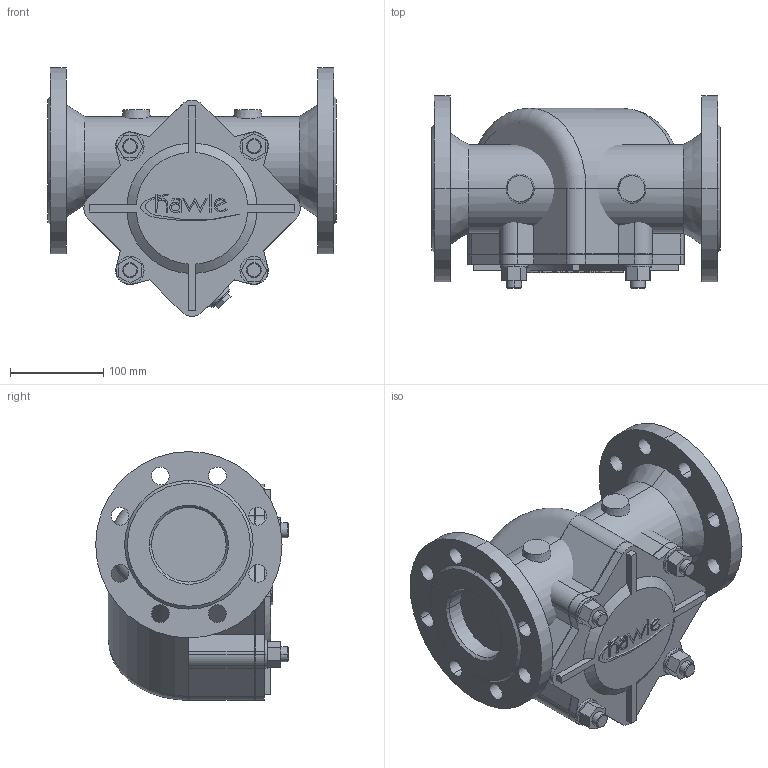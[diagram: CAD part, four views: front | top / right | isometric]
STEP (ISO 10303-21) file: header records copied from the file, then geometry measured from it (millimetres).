
FILE_DESCRIPTION(('STEP AP214'),'1');
FILE_NAME('S:/EK/USER/CAT6/3DHomepage_27-04-2012/neu_22-02-2013/9911/9911_PN16_DN80.STP','2013-02-26T13:22:48',(' '),(' '),'Spatial InterOp 3D',' ',' ');
FILE_SCHEMA(('automotive_design'));
Length unit declared in the file: millimetre
Products named in the file (41): 3D-Objekt
Bounding box: 310 x 206.7 x 267.06 mm (x, y, z)
Volume: 9047976.6 mm3; surface area: 842150.3 mm2
Topology: 41 solids, 41 shells, 361 faces, 832 edges, 554 vertices
Faces by surface type: plane 198, cylinder 129, cone 30, torus 4
Entity records: 14347 total; most frequent: DIRECTION 1948, CARTESIAN_POINT 1938, ORIENTED_EDGE 1664, EDGE_CURVE 832, AXIS2_PLACEMENT_3D 728, VERTEX_POINT 554, LINE 492, VECTOR 492
